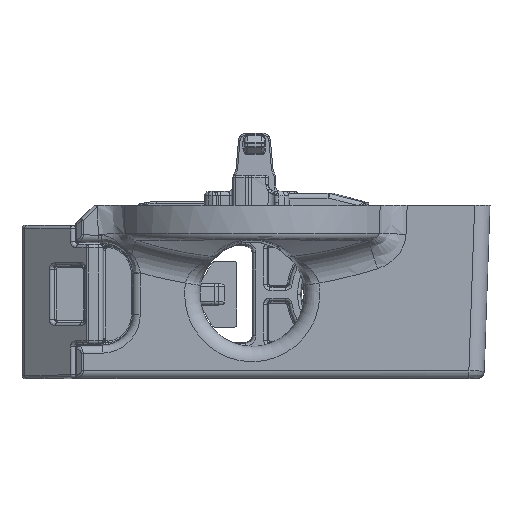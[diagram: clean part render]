
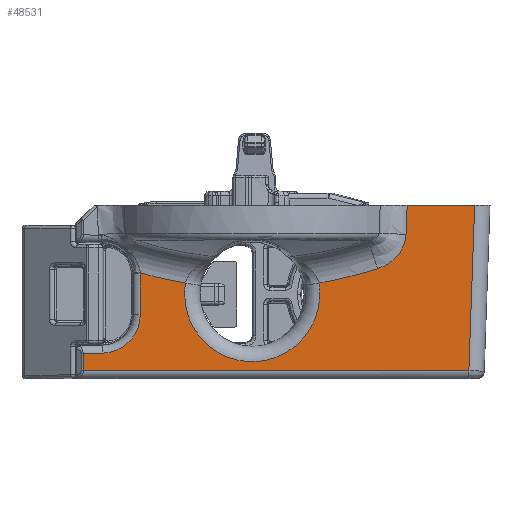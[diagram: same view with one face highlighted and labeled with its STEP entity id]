
A CAD part, top view. The second image highlights one B-rep face of the part: STEP entity #48531.
In plain terms, the highlighted planar face has unit normal (0, 0, 1).
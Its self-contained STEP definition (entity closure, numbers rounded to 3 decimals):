
#8745=CARTESIAN_POINT('',(25.999,-0.8,
3.5));
#8957=DIRECTION('',(1.,0.,0.));
#8958=VECTOR('',#8957,25.132);
#8959=CARTESIAN_POINT('',(0.49,-11.591,
3.5));
#8960=LINE('',#8959,#8958);
#8965=DIRECTION('',(1.,0.017,0.));
#8966=VECTOR('',#8965,1.254);
#8967=CARTESIAN_POINT('',(0.49,-10.465,
3.5));
#8968=LINE('',#8967,#8966);
#8969=CARTESIAN_POINT('',(1.7,-7.935,3.5));
#8970=DIRECTION('',(0.,0.,1.));
#8971=DIRECTION('',(0.017,-1.,0.));
#8972=AXIS2_PLACEMENT_3D('',#8969,#8970,#8971);
#8974=CARTESIAN_POINT('',(1.7,-5.265,3.5));
#8975=DIRECTION('',(0.,0.,1.));
#8976=DIRECTION('',(1.,0.,0.));
#8977=AXIS2_PLACEMENT_3D('',#8974,#8975,#8976);
#8979=CARTESIAN_POINT('',(11.5,20.2,3.5));
#8980=DIRECTION('',(0.,0.,1.));
#8981=DIRECTION('',(-0.276,-0.961,0.));
#8982=AXIS2_PLACEMENT_3D('',#8979,#8980,#8981);
#8984=CARTESIAN_POINT('',(11.5,-6.6,3.5));
#8985=DIRECTION('',(0.,0.,1.));
#8986=DIRECTION('',(-0.986,0.165,0.));
#8987=AXIS2_PLACEMENT_3D('',#8984,#8985,#8986);
#8989=CARTESIAN_POINT('',(11.5,-6.6,3.5));
#8990=DIRECTION('',(0.,0.,1.));
#8991=DIRECTION('',(-1.,0.006,0.));
#8992=AXIS2_PLACEMENT_3D('',#8989,#8990,#8991);
#8994=CARTESIAN_POINT('',(11.5,-6.6,3.5));
#8995=DIRECTION('',(0.,0.,1.));
#8996=DIRECTION('',(1.,-0.006,0.));
#8997=AXIS2_PLACEMENT_3D('',#8994,#8995,#8996);
#8999=CARTESIAN_POINT('',(11.5,20.2,3.5));
#9000=DIRECTION('',(0.,0.,1.));
#9001=DIRECTION('',(0.164,-0.986,0.));
#9002=AXIS2_PLACEMENT_3D('',#8999,#9000,#9001);
#9004=DIRECTION('',(0.04,0.999,0.));
#9005=VECTOR('',#9004,1.901);
#9006=CARTESIAN_POINT('',(21.525,-2.699,3.5));
#9007=LINE('',#9006,#9005);
#9008=DIRECTION('',(1.,0.,0.));
#9009=VECTOR('',#9008,4.398);
#9010=CARTESIAN_POINT('',(21.601,-0.8,
3.5));
#9011=LINE('',#9010,#9009);
#9012=DIRECTION('',(-0.035,-0.999,0.));
#9013=VECTOR('',#9012,10.798);
#9014=CARTESIAN_POINT('',(25.999,-0.8,
3.5));
#9015=LINE('',#9014,#9013);
#9020=DIRECTION('',(0.,-1.,0.));
#9021=VECTOR('',#9020,1.126);
#9022=CARTESIAN_POINT('',(0.49,-10.465,
3.5));
#9023=LINE('',#9022,#9021);
#22956=CARTESIAN_POINT('',(21.525,-2.699,
3.5));
#22957=CARTESIAN_POINT('',(21.519,-2.849,
3.5));
#22958=CARTESIAN_POINT('',(21.481,-3.148,
3.5));
#22959=CARTESIAN_POINT('',(21.282,-3.664,
3.5));
#22960=CARTESIAN_POINT('',(21.03,-4.047,
3.5));
#22961=CARTESIAN_POINT('',(20.612,-4.463,
3.5));
#22962=CARTESIAN_POINT('',(20.216,-4.718,
3.5));
#22963=CARTESIAN_POINT('',(19.862,-4.877,
3.5));
#22964=CARTESIAN_POINT('',(19.669,-4.94,3.5));
#23247=DIRECTION('',(0.,-1.,0.));
#23248=VECTOR('',#23247,2.669);
#23249=CARTESIAN_POINT('',(4.209,-5.265,3.5));
#23250=LINE('',#23249,#23248);
#29074=VERTEX_POINT('',#8745);
#29075=CARTESIAN_POINT('',(21.601,-0.8,
3.5));
#29076=VERTEX_POINT('',#29075);
#29131=CARTESIAN_POINT('',(0.49,-11.591,
3.5));
#29132=CARTESIAN_POINT('',(25.622,-11.591,
3.5));
#29133=VERTEX_POINT('',#29131);
#29134=VERTEX_POINT('',#29132);
#29135=CARTESIAN_POINT('',(0.49,-10.465,
3.5));
#29136=VERTEX_POINT('',#29135);
#29137=CARTESIAN_POINT('',(1.744,-10.443,3.5));
#29138=VERTEX_POINT('',#29137);
#29139=CARTESIAN_POINT('',(4.209,-7.935,3.5));
#29140=VERTEX_POINT('',#29139);
#29141=CARTESIAN_POINT('',(4.209,-5.265,3.5));
#29142=VERTEX_POINT('',#29141);
#29143=CARTESIAN_POINT('',(4.208,-5.208,3.5));
#29144=VERTEX_POINT('',#29143);
#29145=CARTESIAN_POINT('',(7.156,-5.874,3.5));
#29146=VERTEX_POINT('',#29145);
#29147=CARTESIAN_POINT('',(7.096,-6.572,3.5));
#29148=VERTEX_POINT('',#29147);
#29149=CARTESIAN_POINT('',(15.904,-6.628,3.5));
#29150=VERTEX_POINT('',#29149);
#29151=CARTESIAN_POINT('',(15.844,-5.874,3.5));
#29152=VERTEX_POINT('',#29151);
#29153=CARTESIAN_POINT('',(19.669,-4.94,3.5));
#29154=VERTEX_POINT('',#29153);
#29155=VERTEX_POINT('',#22956);
#48496=CARTESIAN_POINT('',(27.,-0.8,3.5));
#48497=DIRECTION('',(0.,0.,1.));
#48498=DIRECTION('',(-1.,0.,0.));
#48499=AXIS2_PLACEMENT_3D('',#48496,#48497,#48498);
#48500=PLANE('',#48499);
#48501=ORIENTED_EDGE('',*,*,#48485,.F.);
#48503=ORIENTED_EDGE('',*,*,#48502,.F.);
#48505=ORIENTED_EDGE('',*,*,#48504,.T.);
#48507=ORIENTED_EDGE('',*,*,#48506,.T.);
#48509=ORIENTED_EDGE('',*,*,#48508,.F.);
#48511=ORIENTED_EDGE('',*,*,#48510,.T.);
#48513=ORIENTED_EDGE('',*,*,#48512,.T.);
#48515=ORIENTED_EDGE('',*,*,#48514,.T.);
#48517=ORIENTED_EDGE('',*,*,#48516,.T.);
#48519=ORIENTED_EDGE('',*,*,#48518,.T.);
#48521=ORIENTED_EDGE('',*,*,#48520,.T.);
#48523=ORIENTED_EDGE('',*,*,#48522,.F.);
#48525=ORIENTED_EDGE('',*,*,#48524,.T.);
#48526=ORIENTED_EDGE('',*,*,#48363,.T.);
#48528=ORIENTED_EDGE('',*,*,#48527,.T.);
#48529=EDGE_LOOP('',(#48501,#48503,#48505,#48507,#48509,#48511,#48513,#48515,
#48517,#48519,#48521,#48523,#48525,#48526,#48528));
#48530=FACE_OUTER_BOUND('',#48529,.F.);
#48531=ADVANCED_FACE('',(#48530),#48500,.T.);
#8973=CIRCLE('',#8972,2.509);
#8978=CIRCLE('',#8977,2.509);
#8983=CIRCLE('',#8982,26.434);
#8988=CIRCLE('',#8987,4.405);
#8993=CIRCLE('',#8992,4.405);
#8998=CIRCLE('',#8997,4.405);
#9003=CIRCLE('',#9002,26.434);
#22965=B_SPLINE_CURVE_WITH_KNOTS('',3,(#22956,#22957,#22958,#22959,#22960,
#22961,#22962,#22963,#22964),.UNSPECIFIED.,.F.,.F.,(4,1,1,1,1,1,4),(0.,
0.167,0.333,0.5,0.667,0.833,
1.),.UNSPECIFIED.);
#48363=EDGE_CURVE('',#29076,#29074,#9011,.T.);
#48485=EDGE_CURVE('',#29133,#29134,#8960,.T.);
#48502=EDGE_CURVE('',#29136,#29133,#9023,.T.);
#48504=EDGE_CURVE('',#29136,#29138,#8968,.T.);
#48506=EDGE_CURVE('',#29138,#29140,#8973,.T.);
#48508=EDGE_CURVE('',#29142,#29140,#23250,.T.);
#48510=EDGE_CURVE('',#29142,#29144,#8978,.T.);
#48512=EDGE_CURVE('',#29144,#29146,#8983,.T.);
#48514=EDGE_CURVE('',#29146,#29148,#8988,.T.);
#48516=EDGE_CURVE('',#29148,#29150,#8993,.T.);
#48518=EDGE_CURVE('',#29150,#29152,#8998,.T.);
#48520=EDGE_CURVE('',#29152,#29154,#9003,.T.);
#48522=EDGE_CURVE('',#29155,#29154,#22965,.T.);
#48524=EDGE_CURVE('',#29155,#29076,#9007,.T.);
#48527=EDGE_CURVE('',#29074,#29134,#9015,.T.);
